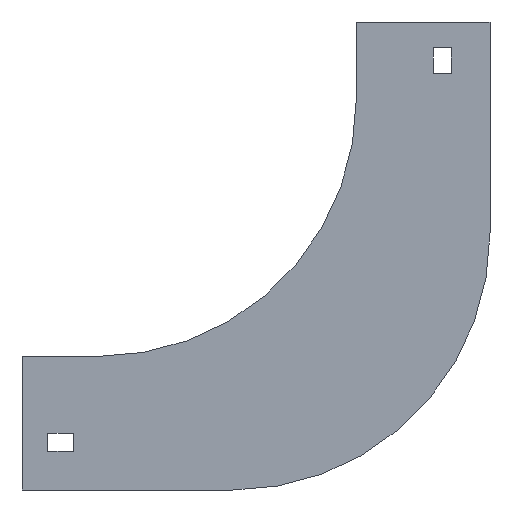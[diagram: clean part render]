
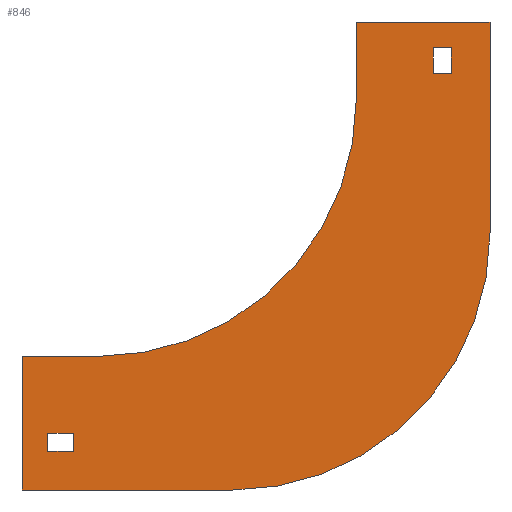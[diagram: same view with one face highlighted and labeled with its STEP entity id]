
A CAD part, left-side view. The second image highlights one B-rep face of the part: STEP entity #846.
In plain terms, the highlighted planar face has unit normal (-1, 0, 0).
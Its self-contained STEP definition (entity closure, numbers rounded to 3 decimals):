
#1 = VERTEX_POINT ( 'NONE', #187 ) ;
#7 = DIRECTION ( 'NONE',  ( 0., 0., -1. ) ) ;
#9 = VECTOR ( 'NONE', #18, 1000. ) ;
#18 = DIRECTION ( 'NONE',  ( 0., -1., 0. ) ) ;
#28 = CARTESIAN_POINT ( 'NONE',  ( -27., 110., -160. ) ) ;
#29 = CARTESIAN_POINT ( 'NONE',  ( -27., 100., -130. ) ) ;
#34 = VECTOR ( 'NONE', #682, 1000. ) ;
#43 = DIRECTION ( 'NONE',  ( 0., 1., 0. ) ) ;
#44 = VERTEX_POINT ( 'NONE', #323 ) ;
#45 = EDGE_CURVE ( 'NONE', #306, #1362, #526, .T. ) ;
#51 = EDGE_LOOP ( 'NONE', ( #1369, #1029, #710, #289 ) ) ;
#55 = EDGE_CURVE ( 'NONE', #313, #167, #551, .T. ) ;
#61 = VERTEX_POINT ( 'NONE', #134 ) ;
#69 = LINE ( 'NONE', #28, #697 ) ;
#90 = EDGE_CURVE ( 'NONE', #301, #804, #974, .T. ) ;
#94 = VECTOR ( 'NONE', #431, 1000. ) ;
#102 = ORIENTED_EDGE ( 'NONE', *, *, #55, .F. ) ;
#105 = CARTESIAN_POINT ( 'NONE',  ( -27., 48., -82. ) ) ;
#108 = VERTEX_POINT ( 'NONE', #779 ) ;
#113 = CARTESIAN_POINT ( 'NONE',  ( -27., -30., -20. ) ) ;
#121 = CARTESIAN_POINT ( 'NONE',  ( -27., -30., -10. ) ) ;
#122 = VECTOR ( 'NONE', #1139, 1000. ) ;
#134 = CARTESIAN_POINT ( 'NONE',  ( -27., 0., 0. ) ) ;
#141 = LINE ( 'NONE', #158, #1213 ) ;
#153 = CARTESIAN_POINT ( 'NONE',  ( -27., 120., -160. ) ) ;
#158 = CARTESIAN_POINT ( 'NONE',  ( -27., 130., -130. ) ) ;
#167 = VERTEX_POINT ( 'NONE', #690 ) ;
#179 = EDGE_CURVE ( 'NONE', #167, #44, #141, .T. ) ;
#184 = PLANE ( 'NONE',  #1191 ) ;
#187 = CARTESIAN_POINT ( 'NONE',  ( -27., 120., -167. ) ) ;
#224 = DIRECTION ( 'NONE',  ( 1., 0., 0. ) ) ;
#251 = CARTESIAN_POINT ( 'NONE',  ( -27., 110., -160. ) ) ;
#263 = ORIENTED_EDGE ( 'NONE', *, *, #1365, .F. ) ;
#265 = EDGE_CURVE ( 'NONE', #723, #747, #790, .T. ) ;
#271 = CARTESIAN_POINT ( 'NONE',  ( -27., 120., -167. ) ) ;
#283 = CARTESIAN_POINT ( 'NONE',  ( -27., -52., -82. ) ) ;
#289 = ORIENTED_EDGE ( 'NONE', *, *, #619, .T. ) ;
#290 = LINE ( 'NONE', #1050, #1074 ) ;
#299 = ORIENTED_EDGE ( 'NONE', *, *, #404, .F. ) ;
#300 = CARTESIAN_POINT ( 'NONE',  ( -27., 120., -160. ) ) ;
#301 = VERTEX_POINT ( 'NONE', #564 ) ;
#302 = EDGE_CURVE ( 'NONE', #747, #313, #625, .T. ) ;
#306 = VERTEX_POINT ( 'NONE', #29 ) ;
#313 = VERTEX_POINT ( 'NONE', #335 ) ;
#323 = CARTESIAN_POINT ( 'NONE',  ( -27., 130., -130. ) ) ;
#335 = CARTESIAN_POINT ( 'NONE',  ( -27., 48., -182. ) ) ;
#342 = ORIENTED_EDGE ( 'NONE', *, *, #1141, .F. ) ;
#348 = CARTESIAN_POINT ( 'NONE',  ( -27., -37., -10. ) ) ;
#349 = ORIENTED_EDGE ( 'NONE', *, *, #45, .F. ) ;
#354 = CARTESIAN_POINT ( 'NONE',  ( -27., 130., -182. ) ) ;
#356 = EDGE_CURVE ( 'NONE', #804, #418, #1320, .T. ) ;
#368 = ORIENTED_EDGE ( 'NONE', *, *, #738, .F. ) ;
#373 = VECTOR ( 'NONE', #1382, 1000. ) ;
#386 = CARTESIAN_POINT ( 'NONE',  ( -27., 120., -160. ) ) ;
#394 = VECTOR ( 'NONE', #43, 1000. ) ;
#402 = CARTESIAN_POINT ( 'NONE',  ( -27., 100., -30. ) ) ;
#404 = EDGE_CURVE ( 'NONE', #546, #483, #1017, .T. ) ;
#418 = VERTEX_POINT ( 'NONE', #1121 ) ;
#431 = DIRECTION ( 'NONE',  ( 0., -1., 0. ) ) ;
#462 = CARTESIAN_POINT ( 'NONE',  ( -27., -30., -20. ) ) ;
#480 = ORIENTED_EDGE ( 'NONE', *, *, #836, .F. ) ;
#483 = VERTEX_POINT ( 'NONE', #386 ) ;
#509 = DIRECTION ( 'NONE',  ( 0., -1., 0. ) ) ;
#526 = CIRCLE ( 'NONE', #1370, 100. ) ;
#546 = VERTEX_POINT ( 'NONE', #251 ) ;
#548 = CARTESIAN_POINT ( 'NONE',  ( -27., 0., -30. ) ) ;
#550 = VECTOR ( 'NONE', #669, 1000. ) ;
#551 = LINE ( 'NONE', #354, #550 ) ;
#561 = EDGE_CURVE ( 'NONE', #1184, #301, #1204, .T. ) ;
#562 = DIRECTION ( 'NONE',  ( 0., 0., -1. ) ) ;
#564 = CARTESIAN_POINT ( 'NONE',  ( -27., -30., -10. ) ) ;
#597 = DIRECTION ( 'NONE',  ( 0., 0., 1. ) ) ;
#601 = EDGE_CURVE ( 'NONE', #1362, #61, #1212, .T. ) ;
#619 = EDGE_CURVE ( 'NONE', #418, #1184, #1087, .T. ) ;
#625 = CIRCLE ( 'NONE', #1277, 100. ) ;
#647 = VECTOR ( 'NONE', #984, 1000. ) ;
#654 = DIRECTION ( 'NONE',  ( -1., 0., 0. ) ) ;
#669 = DIRECTION ( 'NONE',  ( 0., 1., 0. ) ) ;
#675 = DIRECTION ( 'NONE',  ( 0., 0., 1. ) ) ;
#681 = EDGE_LOOP ( 'NONE', ( #1094, #748, #349, #263, #1160, #102, #770, #947 ) ) ;
#682 = DIRECTION ( 'NONE',  ( 0., 1., 0. ) ) ;
#690 = CARTESIAN_POINT ( 'NONE',  ( -27., 130., -182. ) ) ;
#697 = VECTOR ( 'NONE', #928, 1000. ) ;
#710 = ORIENTED_EDGE ( 'NONE', *, *, #356, .T. ) ;
#723 = VERTEX_POINT ( 'NONE', #1242 ) ;
#724 = FACE_BOUND ( 'NONE', #51, .T. ) ;
#738 = EDGE_CURVE ( 'NONE', #1, #108, #805, .T. ) ;
#747 = VERTEX_POINT ( 'NONE', #283 ) ;
#748 = ORIENTED_EDGE ( 'NONE', *, *, #601, .F. ) ;
#755 = CARTESIAN_POINT ( 'NONE',  ( -27., -30., -10. ) ) ;
#769 = LINE ( 'NONE', #775, #9 ) ;
#770 = ORIENTED_EDGE ( 'NONE', *, *, #302, .F. ) ;
#775 = CARTESIAN_POINT ( 'NONE',  ( -27., 100., -130. ) ) ;
#779 = CARTESIAN_POINT ( 'NONE',  ( -27., 110., -167. ) ) ;
#790 = LINE ( 'NONE', #1085, #958 ) ;
#804 = VERTEX_POINT ( 'NONE', #851 ) ;
#805 = LINE ( 'NONE', #271, #122 ) ;
#807 = EDGE_CURVE ( 'NONE', #61, #723, #290, .T. ) ;
#836 = EDGE_CURVE ( 'NONE', #483, #1, #1038, .T. ) ;
#846 = ADVANCED_FACE ( 'NONE', ( #950, #724, #1275 ), #184, .F. ) ;
#851 = CARTESIAN_POINT ( 'NONE',  ( -27., -37., -10. ) ) ;
#928 = DIRECTION ( 'NONE',  ( 0., 0., 1. ) ) ;
#947 = ORIENTED_EDGE ( 'NONE', *, *, #265, .F. ) ;
#950 = FACE_OUTER_BOUND ( 'NONE', #681, .T. ) ;
#958 = VECTOR ( 'NONE', #7, 1000. ) ;
#974 = LINE ( 'NONE', #755, #94 ) ;
#984 = DIRECTION ( 'NONE',  ( 0., 0., -1. ) ) ;
#993 = DIRECTION ( 'NONE',  ( 0., 0., 1. ) ) ;
#1017 = LINE ( 'NONE', #153, #394 ) ;
#1029 = ORIENTED_EDGE ( 'NONE', *, *, #90, .T. ) ;
#1038 = LINE ( 'NONE', #300, #373 ) ;
#1050 = CARTESIAN_POINT ( 'NONE',  ( -27., -52., 0. ) ) ;
#1074 = VECTOR ( 'NONE', #509, 1000. ) ;
#1085 = CARTESIAN_POINT ( 'NONE',  ( -27., -52., -82. ) ) ;
#1087 = LINE ( 'NONE', #113, #34 ) ;
#1094 = ORIENTED_EDGE ( 'NONE', *, *, #807, .F. ) ;
#1111 = CARTESIAN_POINT ( 'NONE',  ( -27., 100., -30. ) ) ;
#1115 = CARTESIAN_POINT ( 'NONE',  ( -27., 0., 0. ) ) ;
#1121 = CARTESIAN_POINT ( 'NONE',  ( -27., -37., -20. ) ) ;
#1139 = DIRECTION ( 'NONE',  ( 0., -1., 0. ) ) ;
#1141 = EDGE_CURVE ( 'NONE', #108, #546, #69, .T. ) ;
#1160 = ORIENTED_EDGE ( 'NONE', *, *, #179, .F. ) ;
#1172 = DIRECTION ( 'NONE',  ( 1., 0., 0. ) ) ;
#1178 = DIRECTION ( 'NONE',  ( 0., 0., -1. ) ) ;
#1184 = VERTEX_POINT ( 'NONE', #462 ) ;
#1187 = DIRECTION ( 'NONE',  ( 0., 0., 1. ) ) ;
#1191 = AXIS2_PLACEMENT_3D ( 'NONE', #402, #1172, #1178 ) ;
#1204 = LINE ( 'NONE', #121, #1239 ) ;
#1212 = LINE ( 'NONE', #1115, #1375 ) ;
#1213 = VECTOR ( 'NONE', #597, 1000. ) ;
#1239 = VECTOR ( 'NONE', #1187, 1000. ) ;
#1242 = CARTESIAN_POINT ( 'NONE',  ( -27., -52., 0. ) ) ;
#1275 = FACE_BOUND ( 'NONE', #1336, .T. ) ;
#1277 = AXIS2_PLACEMENT_3D ( 'NONE', #105, #224, #993 ) ;
#1320 = LINE ( 'NONE', #348, #647 ) ;
#1336 = EDGE_LOOP ( 'NONE', ( #480, #299, #342, #368 ) ) ;
#1362 = VERTEX_POINT ( 'NONE', #548 ) ;
#1365 = EDGE_CURVE ( 'NONE', #44, #306, #769, .T. ) ;
#1369 = ORIENTED_EDGE ( 'NONE', *, *, #561, .T. ) ;
#1370 = AXIS2_PLACEMENT_3D ( 'NONE', #1111, #654, #562 ) ;
#1375 = VECTOR ( 'NONE', #675, 1000. ) ;
#1382 = DIRECTION ( 'NONE',  ( 0., 0., -1. ) ) ;
